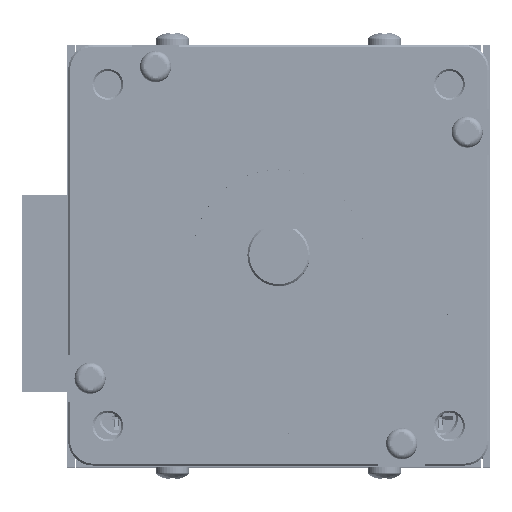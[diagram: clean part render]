
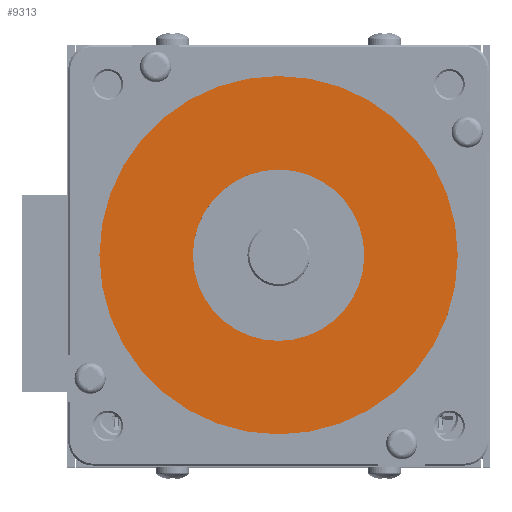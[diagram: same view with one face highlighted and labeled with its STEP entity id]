
A CAD part, top view. The second image highlights one B-rep face of the part: STEP entity #9313.
In plain terms, the highlighted planar face has unit normal (0, 0, 1).
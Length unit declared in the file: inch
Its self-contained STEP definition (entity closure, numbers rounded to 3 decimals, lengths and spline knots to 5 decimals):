
#4451 = DIRECTION ( 'NONE',  ( 1., 0., 0. ) ) ;
#9313 = ADVANCED_FACE ( 'NONE', ( #63486, #97964 ), #156561, .T. ) ;
#13289 = CIRCLE ( 'NONE', #21913, 0.6875 ) ;
#14729 = VERTEX_POINT ( 'NONE', #96828 ) ;
#19560 = DIRECTION ( 'NONE',  ( 0., 0., 1. ) ) ;
#21762 = AXIS2_PLACEMENT_3D ( 'NONE', #179957, #92498, #4451 ) ;
#21913 = AXIS2_PLACEMENT_3D ( 'NONE', #116467, #28619, #131209 ) ;
#24573 = EDGE_CURVE ( 'NONE', #153056, #61277, #153464, .T. ) ;
#24677 = ORIENTED_EDGE ( 'NONE', *, *, #106773, .T. ) ;
#28619 = DIRECTION ( 'NONE',  ( 0., 0., 1. ) ) ;
#32488 = CARTESIAN_POINT ( 'NONE',  ( -1.4375, 0., 0.06 ) ) ;
#40058 = DIRECTION ( 'NONE',  ( 0., 0., 1. ) ) ;
#47536 = CIRCLE ( 'NONE', #134024, 1.4375 ) ;
#51136 = EDGE_CURVE ( 'NONE', #14729, #120954, #13289, .T. ) ;
#61277 = VERTEX_POINT ( 'NONE', #180579 ) ;
#62504 = ORIENTED_EDGE ( 'NONE', *, *, #51136, .F. ) ;
#63486 = FACE_OUTER_BOUND ( 'NONE', #166531, .T. ) ;
#85528 = DIRECTION ( 'NONE',  ( 0., 0., 1. ) ) ;
#89973 = ORIENTED_EDGE ( 'NONE', *, *, #168179, .F. ) ;
#92498 = DIRECTION ( 'NONE',  ( 0., 0., 1. ) ) ;
#96090 = CARTESIAN_POINT ( 'NONE',  ( -0.6875, 0., 0.06 ) ) ;
#96828 = CARTESIAN_POINT ( 'NONE',  ( 0.6875, 0., 0.06 ) ) ;
#97964 = FACE_BOUND ( 'NONE', #120746, .T. ) ;
#106773 = EDGE_CURVE ( 'NONE', #61277, #153056, #47536, .T. ) ;
#107445 = CARTESIAN_POINT ( 'NONE',  ( 0., 0., 0.06 ) ) ;
#114004 = AXIS2_PLACEMENT_3D ( 'NONE', #107445, #19560, #122126 ) ;
#116467 = CARTESIAN_POINT ( 'NONE',  ( 0., 0., 0.06 ) ) ;
#120746 = EDGE_LOOP ( 'NONE', ( #89973, #62504 ) ) ;
#120954 = VERTEX_POINT ( 'NONE', #96090 ) ;
#121189 = AXIS2_PLACEMENT_3D ( 'NONE', #127820, #40058, #142532 ) ;
#122126 = DIRECTION ( 'NONE',  ( 1., 0., 0. ) ) ;
#127668 = CIRCLE ( 'NONE', #114004, 0.6875 ) ;
#127820 = CARTESIAN_POINT ( 'NONE',  ( 0., 0., 0.06 ) ) ;
#131209 = DIRECTION ( 'NONE',  ( 1., 0., 0. ) ) ;
#134024 = AXIS2_PLACEMENT_3D ( 'NONE', #173043, #85528, #187752 ) ;
#140469 = ORIENTED_EDGE ( 'NONE', *, *, #24573, .T. ) ;
#142532 = DIRECTION ( 'NONE',  ( 1., 0., 0. ) ) ;
#153056 = VERTEX_POINT ( 'NONE', #32488 ) ;
#153464 = CIRCLE ( 'NONE', #21762, 1.4375 ) ;
#156561 = PLANE ( 'NONE',  #121189 ) ;
#166531 = EDGE_LOOP ( 'NONE', ( #140469, #24677 ) ) ;
#168179 = EDGE_CURVE ( 'NONE', #120954, #14729, #127668, .T. ) ;
#173043 = CARTESIAN_POINT ( 'NONE',  ( 0., 0., 0.06 ) ) ;
#179957 = CARTESIAN_POINT ( 'NONE',  ( 0., 0., 0.06 ) ) ;
#180579 = CARTESIAN_POINT ( 'NONE',  ( 1.4375, 0., 0.06 ) ) ;
#187752 = DIRECTION ( 'NONE',  ( 1., 0., 0. ) ) ;
